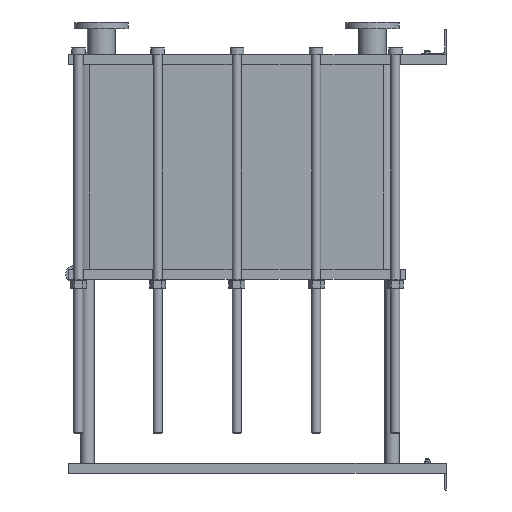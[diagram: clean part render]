
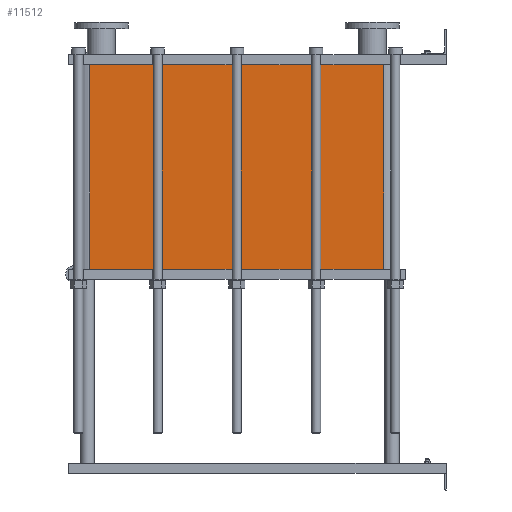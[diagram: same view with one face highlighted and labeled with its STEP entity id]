
A CAD part, left-side view. The second image highlights one B-rep face of the part: STEP entity #11512.
In plain terms, the highlighted planar face has unit normal (-1, 0, 0).
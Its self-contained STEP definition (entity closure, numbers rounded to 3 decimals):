
#1129=LINE('',#23232,#2102);
#1130=LINE('',#23236,#2103);
#1131=LINE('',#23238,#2104);
#1132=LINE('',#23239,#2105);
#2102=VECTOR('',#15887,10.);
#2103=VECTOR('',#15892,10.);
#2104=VECTOR('',#15893,10.);
#2105=VECTOR('',#15894,10.);
#3267=FACE_OUTER_BOUND('',#4093,.T.);
#4093=EDGE_LOOP('',(#10103,#10104,#10105,#10106));
#5642=VERTEX_POINT('',#23229);
#5643=VERTEX_POINT('',#23231);
#5644=VERTEX_POINT('',#23235);
#5645=VERTEX_POINT('',#23237);
#7159=EDGE_CURVE('',#5643,#5642,#1129,.T.);
#7161=EDGE_CURVE('',#5642,#5644,#1130,.T.);
#7162=EDGE_CURVE('',#5645,#5644,#1131,.T.);
#7163=EDGE_CURVE('',#5645,#5643,#1132,.T.);
#10103=ORIENTED_EDGE('',*,*,#7161,.T.);
#10104=ORIENTED_EDGE('',*,*,#7162,.F.);
#10105=ORIENTED_EDGE('',*,*,#7163,.T.);
#10106=ORIENTED_EDGE('',*,*,#7159,.T.);
#10857=PLANE('',#12751);
#11512=ADVANCED_FACE('',(#3267),#10857,.T.);
#12751=AXIS2_PLACEMENT_3D('',#23234,#15890,#15891);
#15887=DIRECTION('',(0.,0.,-1.));
#15890=DIRECTION('center_axis',(-1.,0.,0.));
#15891=DIRECTION('ref_axis',(0.,1.,0.));
#15892=DIRECTION('',(0.,-1.,0.));
#15893=DIRECTION('',(0.,0.,-1.));
#15894=DIRECTION('',(0.,1.,0.));
#23229=CARTESIAN_POINT('',(-200.,1414.,-810.75));
#23231=CARTESIAN_POINT('',(-200.,1414.,0.));
#23232=CARTESIAN_POINT('',(-200.,1414.,0.));
#23234=CARTESIAN_POINT('Origin',(-200.,248.,0.));
#23235=CARTESIAN_POINT('',(-200.,248.,-810.75));
#23236=CARTESIAN_POINT('',(-200.,539.5,-810.75));
#23237=CARTESIAN_POINT('',(-200.,248.,0.));
#23238=CARTESIAN_POINT('',(-200.,248.,0.));
#23239=CARTESIAN_POINT('',(-200.,248.,0.));
